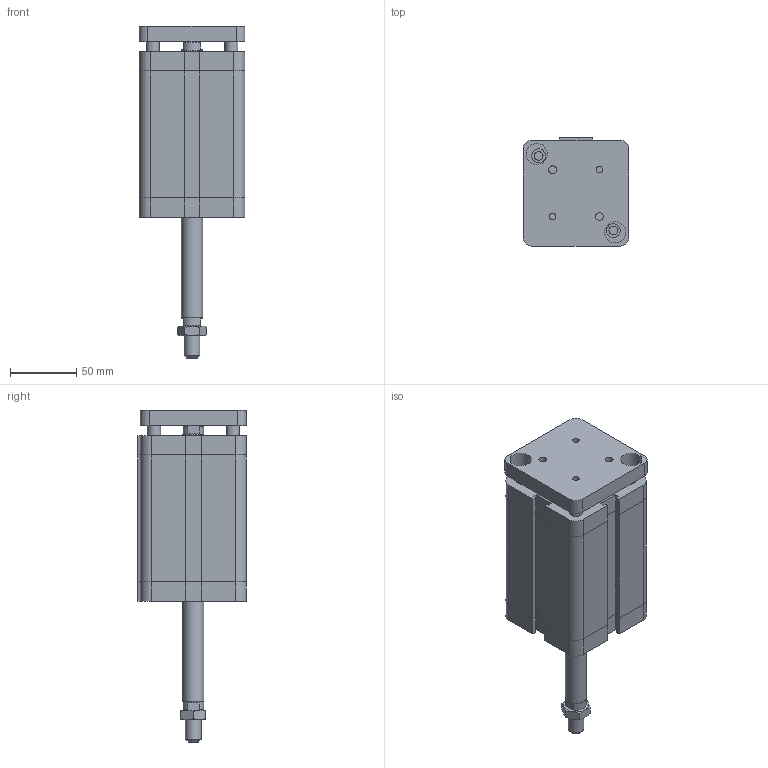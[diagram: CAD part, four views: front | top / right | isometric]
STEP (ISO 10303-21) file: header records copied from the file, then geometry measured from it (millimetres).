
FILE_DESCRIPTION((''),'2;1');
FILE_NAME('I:\Area Tecnica\Disegni\VARIE-3D\Componenti\EUROPE\15##_###_####_09_#\1561_63_0075_09_1.iam.stp','2009-04-20T15:39:32',(''),(''),'Autodesk Inventor 2009','Autodesk Inventor 2009','');
FILE_SCHEMA(('AUTOMOTIVE_DESIGN { 1 0 10303 214 1 1 1 1 }'));
Length unit declared in the file: millimetre
Products named in the file (4): 1561_63_0075_09_1; 1561_63_0075_08_1_C; 1561_63_0075_09_1_SA; DBFM12
Assembly tree (3 placements, depth 2):
  1561_63_0075_09_1
    1561_63_0075_08_1_C
    1561_63_0075_09_1_SA
    DBFM12
Bounding box: 80 x 82 x 251 mm (x, y, z)
Volume: 868230.9 mm3; surface area: 104899.9 mm2
Topology: 3 solids, 3 shells, 209 faces, 470 edges, 287 vertices
Faces by surface type: plane 120, bspline 45, cylinder 23, cone 21
Full cylindrical faces by diameter (mm): 10 x2, 10.8 x1, 12 x1, 15.6 x2, 16 x1
Entity records: 5963 total; most frequent: CARTESIAN_POINT 1453, DIRECTION 838, ORIENTED_EDGE 834, EDGE_CURVE 417, AXIS2_PLACEMENT_3D 282, EDGE_LOOP 282, VECTOR 274, LINE 274
